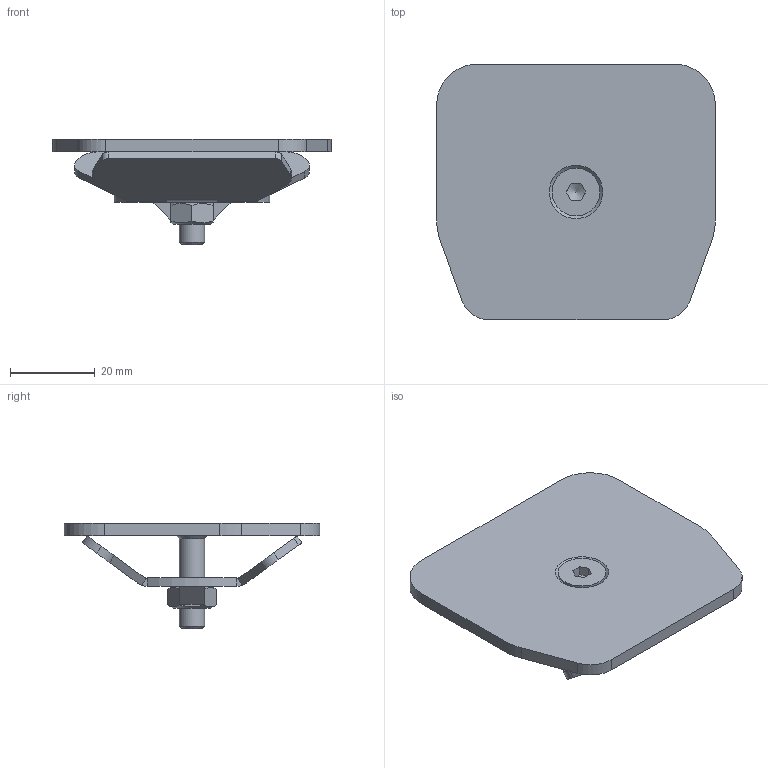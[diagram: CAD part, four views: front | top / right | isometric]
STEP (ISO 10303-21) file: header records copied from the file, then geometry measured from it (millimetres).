
FILE_DESCRIPTION(/* description */ ('Laufrohrabschluss Nr.3'),/* implementation_level */ '2;1');
FILE_NAME(/* name */ 'Q:\sge-ma\Produktmanagement-STB\STB\Workspace\TraceParts\Laufrohrabschluss\010337053.stp',/* time_stamp */ '2018-03-05T08:50:36+01:00',/* author */ ('avschreier'),/* organization */ (''),/* preprocessor_version */ 'ST-DEVELOPER v16.1',/* originating_system */ 'Autodesk Inventor 2016',/* authorisation */ '');
FILE_SCHEMA (('CONFIG_CONTROL_DESIGN'));
Length unit declared in the file: millimetre
Products named in the file (6): 010337053_Schweißnähte; 337000272; 337000273; DIN_EN_ISO_4032-M6_en; DIN_EN_ISO_10642-M6x25_en; 010337053
Assembly tree (5 placements, depth 2):
  010337053
    010337053_Schweißnähte
    337000272
    337000273
    DIN_EN_ISO_4032-M6_en
    DIN_EN_ISO_10642-M6x25_en
Bounding box: 65.9 x 60.5 x 25 mm (x, y, z)
Volume: 16911.8 mm3; surface area: 14669.2 mm2
Topology: 6 solids, 6 shells, 116 faces, 289 edges, 185 vertices
Faces by surface type: plane 84, cylinder 24, cone 8
Full cylindrical faces by diameter (mm): 4.917 x1, 6 x1, 6.5 x1, 11.34 x1
Entity records: 3475 total; most frequent: CARTESIAN_POINT 621, DIRECTION 566, ORIENTED_EDGE 550, EDGE_CURVE 275, LINE 202, VECTOR 202, VERTEX_POINT 183, AXIS2_PLACEMENT_3D 182
